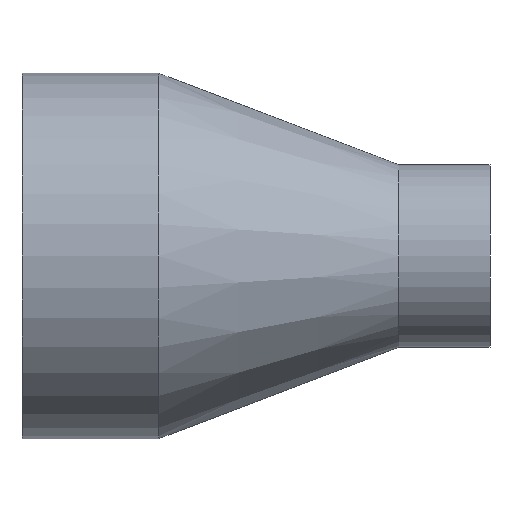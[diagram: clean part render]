
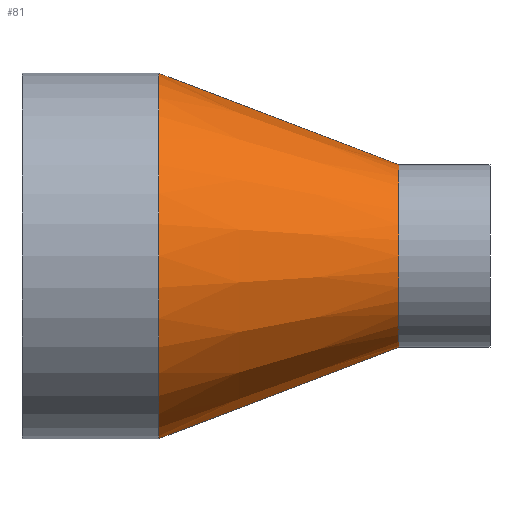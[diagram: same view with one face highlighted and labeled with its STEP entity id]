
A CAD part, front view. The second image highlights one B-rep face of the part: STEP entity #81.
In plain terms, the highlighted conical face has half-angle 20.854 degrees and reference radius 25.4 mm.
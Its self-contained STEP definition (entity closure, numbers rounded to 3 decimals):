
#20 = EDGE_CURVE ( 'NONE', #167, #339, #332, .T. ) ;
#22 = CIRCLE ( 'NONE', #193, 25.4 ) ;
#30 = LINE ( 'NONE', #322, #71 ) ;
#36 = CIRCLE ( 'NONE', #385, 50.8 ) ;
#48 = VERTEX_POINT ( 'NONE', #336 ) ;
#52 = CARTESIAN_POINT ( 'NONE',  ( 38.1, 0., -50.8 ) ) ;
#65 = DIRECTION ( 'NONE',  ( 0., 0., 1. ) ) ;
#68 = ORIENTED_EDGE ( 'NONE', *, *, #92, .T. ) ;
#71 = VECTOR ( 'NONE', #131, 1000. ) ;
#74 = DIRECTION ( 'NONE',  ( 0., 0., 1. ) ) ;
#81 = ADVANCED_FACE ( 'NONE', ( #100 ), #122, .T. ) ;
#92 = EDGE_CURVE ( 'NONE', #48, #167, #22, .T. ) ;
#99 = CARTESIAN_POINT ( 'NONE',  ( 38.1, 0., 0. ) ) ;
#100 = FACE_OUTER_BOUND ( 'NONE', #221, .T. ) ;
#108 = DIRECTION ( 'NONE',  ( -1., 0., 0. ) ) ;
#112 = ORIENTED_EDGE ( 'NONE', *, *, #20, .T. ) ;
#119 = CARTESIAN_POINT ( 'NONE',  ( 104.775, 0., 25.4 ) ) ;
#122 = CONICAL_SURFACE ( 'NONE', #153, 25.4, 0.364 ) ;
#131 = DIRECTION ( 'NONE',  ( -0.934, 0., -0.356 ) ) ;
#141 = DIRECTION ( 'NONE',  ( 0., 0., 1. ) ) ;
#153 = AXIS2_PLACEMENT_3D ( 'NONE', #364, #238, #141 ) ;
#167 = VERTEX_POINT ( 'NONE', #231 ) ;
#181 = CARTESIAN_POINT ( 'NONE',  ( 38.1, 0., 50.8 ) ) ;
#193 = AXIS2_PLACEMENT_3D ( 'NONE', #331, #108, #74 ) ;
#221 = EDGE_LOOP ( 'NONE', ( #290, #68, #112, #262 ) ) ;
#223 = EDGE_CURVE ( 'NONE', #48, #345, #30, .T. ) ;
#231 = CARTESIAN_POINT ( 'NONE',  ( 104.775, 0., 25.4 ) ) ;
#238 = DIRECTION ( 'NONE',  ( -1., 0., 0. ) ) ;
#245 = EDGE_CURVE ( 'NONE', #345, #339, #36, .T. ) ;
#262 = ORIENTED_EDGE ( 'NONE', *, *, #245, .F. ) ;
#263 = VECTOR ( 'NONE', #341, 1000. ) ;
#290 = ORIENTED_EDGE ( 'NONE', *, *, #223, .F. ) ;
#293 = DIRECTION ( 'NONE',  ( -1., 0., 0. ) ) ;
#322 = CARTESIAN_POINT ( 'NONE',  ( 104.775, 0., -25.4 ) ) ;
#331 = CARTESIAN_POINT ( 'NONE',  ( 104.775, 0., 0. ) ) ;
#332 = LINE ( 'NONE', #119, #263 ) ;
#336 = CARTESIAN_POINT ( 'NONE',  ( 104.775, 0., -25.4 ) ) ;
#339 = VERTEX_POINT ( 'NONE', #181 ) ;
#341 = DIRECTION ( 'NONE',  ( -0.934, 0., 0.356 ) ) ;
#345 = VERTEX_POINT ( 'NONE', #52 ) ;
#364 = CARTESIAN_POINT ( 'NONE',  ( 104.775, 0., 0. ) ) ;
#385 = AXIS2_PLACEMENT_3D ( 'NONE', #99, #293, #65 ) ;
